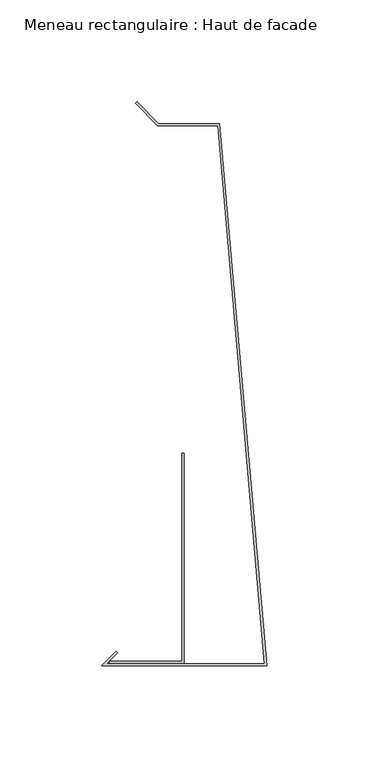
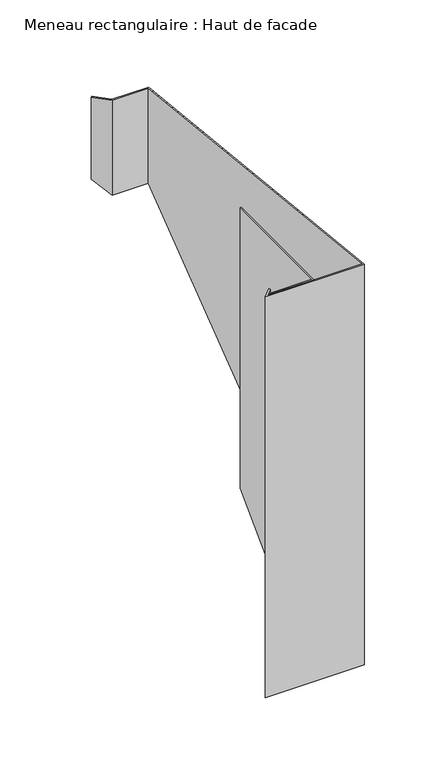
"""IFC4 building model written with IfcOpenShell, lengths in millimetres: member geometry, Meneau rectangulaire : Haut de facade."""

from ifc_helpers import new_model, si_unit, origin, place, context, project, spatial, faceted_brep, source, transform, mapped, element, save


def meneau_rectangulaire_haut_de_facade_35e44159(model_context):
    return source(origin(), model_context, "Body", "Brep", [
        faceted_brep([(-24.0647895, 160.703755, 0.0), (-1.0913085, -103.2, 0.0), (-78.5857864, -103.2, 0.0), (-73.2218254, -97.836039, 0.0), (-73.9289322, -97.1289322, 0.0), (-81.0, -104.2, 0.0), (0.0, -104.2, 0.0), (-23.1484584, 161.703755, 0.0), (-53.1484584, 161.703755, 0.0), (-63.7550601, 172.3103567, 0.0), (-64.4621669, 171.6032499, 0.0), (-53.5626719, 160.703755, 0.0), (-24.0647895, 160.703755, -82.296245), (-1.0913085, -103.2, -346.2), (-78.5857864, -103.2, -346.2), (-73.2218254, -97.836039, -340.836039), (-73.9289322, -97.1289322, -340.1289322), (-81.0, -104.2, -347.2), (0.0, -104.2, -347.2), (-23.1484584, 161.703755, -81.296245), (-53.1484584, 161.703755, -81.296245), (-63.7550601, 172.3103567, -70.6896433), (-64.4621669, 171.6032499, -71.3967501), (-53.5626719, 160.703755, -82.296245)], [[[0, 1, 2, 3, 4, 5, 6, 7, 8, 9, 10, 11]], [[1, 0, 12, 13]], [[2, 1, 13, 14]], [[3, 2, 14, 15]], [[4, 3, 15, 16]], [[5, 4, 16, 17]], [[6, 5, 17, 18]], [[7, 6, 18, 19]], [[8, 7, 19, 20]], [[9, 8, 20, 21]], [[10, 9, 21, 22]], [[11, 10, 22, 23]], [[0, 11, 23, 12]], [[12, 23, 22, 21, 20, 19, 18, 17, 16, 15, 14, 13]]]),
        faceted_brep([(-40.5477541, -102.9846816, 0.0), (-40.5477541, -0.0384227, 0.0), (-41.5477541, -0.0384227, 0.0), (-41.5477541, -101.9846816, 0.0), (-77.0752814, -101.9846816, 0.0), (-77.0752814, -102.9846816, 0.0), (-40.5477541, -102.9846816, -345.9846816), (-40.5477541, -0.0384227, -243.0384227), (-41.5477541, -0.0384227, -243.0384227), (-41.5477541, -101.9846816, -344.9846816), (-77.0752814, -101.9846816, -344.9846816), (-77.0752814, -102.9846816, -345.9846816)], [[[0, 1, 2, 3, 4, 5]], [[1, 0, 6, 7]], [[2, 1, 7, 8]], [[3, 2, 8, 9]], [[4, 3, 9, 10]], [[5, 4, 10, 11]], [[0, 5, 11, 6]], [[6, 11, 10, 9, 8, 7]]]),
    ])


if __name__ == "__main__":
    model = new_model("IFC4")
    model_context = context("Model", 3, world=origin())
    ifc_project = project(units=[si_unit("LENGTHUNIT", "METRE", prefix="MILLI")], contexts=[model_context])
    site = spatial("IfcSite", under=ifc_project)
    building = spatial("IfcBuilding", under=site)
    placement = place(None, origin())
    meneau_rectangulaire_haut_de_facade_shape = meneau_rectangulaire_haut_de_facade_35e44159(model_context)
    element("IfcMember", 1, ObjectType="Meneau rectangulaire : Haut de facade", at=placement, inside=building, context=model_context, shape_type="MappedRepresentation", body=[
        mapped(meneau_rectangulaire_haut_de_facade_shape, transform((0.0, 0.0, 0.0), x_axis=(1.0, 0.0, 0.0), y_axis=(0.0, 1.0, 0.0), z_axis=(0.0, 0.0, 1.0))),
    ])
    save(model, "model.ifc")
